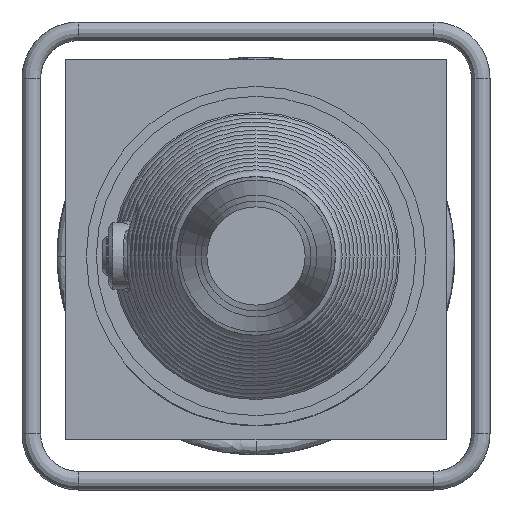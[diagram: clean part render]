
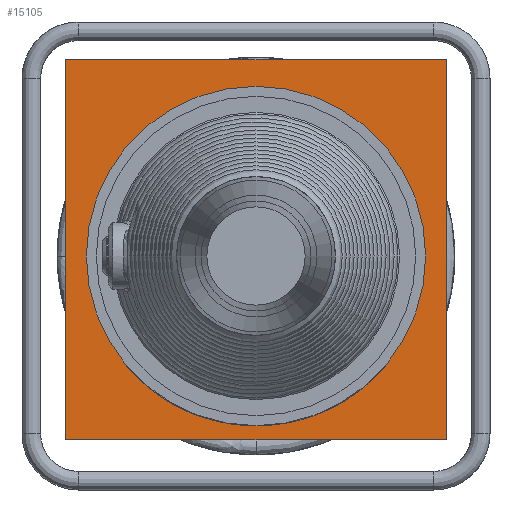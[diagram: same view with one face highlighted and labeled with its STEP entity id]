
A CAD part, left-side view. The second image highlights one B-rep face of the part: STEP entity #15105.
In plain terms, the highlighted planar face has unit normal (-1, 0, 0).
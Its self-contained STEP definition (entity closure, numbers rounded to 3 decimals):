
#1554=PLANE('',#15955);
#2421=LINE('',#40050,#3297);
#2425=LINE('',#40057,#3301);
#2428=LINE('',#40062,#3304);
#2431=LINE('',#40066,#3307);
#3297=VECTOR('',#18496,325.);
#3301=VECTOR('',#18502,325.);
#3304=VECTOR('',#18507,325.);
#3307=VECTOR('',#18512,325.);
#3583=FACE_BOUND('',#5514,.T.);
#4466=FACE_OUTER_BOUND('',#5513,.T.);
#5513=EDGE_LOOP('',(#13834,#13835,#13836,#13837));
#5514=EDGE_LOOP('',(#13838));
#5867=CIRCLE('',#15724,145.);
#7308=VERTEX_POINT('',#35227);
#7441=VERTEX_POINT('',#40048);
#7442=VERTEX_POINT('',#40049);
#7444=VERTEX_POINT('',#40056);
#7445=VERTEX_POINT('',#40061);
#9413=EDGE_CURVE('',#7308,#7308,#5867,.T.);
#9580=EDGE_CURVE('',#7441,#7442,#2421,.T.);
#9584=EDGE_CURVE('',#7442,#7444,#2425,.T.);
#9587=EDGE_CURVE('',#7444,#7445,#2428,.T.);
#9590=EDGE_CURVE('',#7445,#7441,#2431,.T.);
#13834=ORIENTED_EDGE('',*,*,#9590,.T.);
#13835=ORIENTED_EDGE('',*,*,#9580,.T.);
#13836=ORIENTED_EDGE('',*,*,#9584,.T.);
#13837=ORIENTED_EDGE('',*,*,#9587,.T.);
#13838=ORIENTED_EDGE('',*,*,#9413,.T.);
#15105=ADVANCED_FACE('',(#4466,#3583),#1554,.F.);
#15724=AXIS2_PLACEMENT_3D('',#35228,#18035,#18036);
#15955=AXIS2_PLACEMENT_3D('',#40067,#18513,#18514);
#18035=DIRECTION('center_axis',(1.,0.,0.));
#18036=DIRECTION('ref_axis',(0.,-1.,0.));
#18496=DIRECTION('',(0.,0.,-1.));
#18502=DIRECTION('',(0.,-1.,0.));
#18507=DIRECTION('',(0.,0.,1.));
#18512=DIRECTION('',(0.,1.,0.));
#18513=DIRECTION('center_axis',(1.,0.,0.));
#18514=DIRECTION('ref_axis',(0.,0.,1.));
#35227=CARTESIAN_POINT('',(-112.151,-145.,-0.005));
#35228=CARTESIAN_POINT('Origin',(-112.151,0.,
0.));
#40048=CARTESIAN_POINT('',(-112.151,162.5,167.753));
#40049=CARTESIAN_POINT('',(-112.151,162.5,-157.247));
#40050=CARTESIAN_POINT('',(-112.151,162.5,167.753));
#40056=CARTESIAN_POINT('',(-112.151,-162.5,-157.247));
#40057=CARTESIAN_POINT('',(-112.151,162.5,-157.247));
#40061=CARTESIAN_POINT('',(-112.151,-162.5,167.753));
#40062=CARTESIAN_POINT('',(-112.151,-162.5,-157.247));
#40066=CARTESIAN_POINT('',(-112.151,-162.5,167.753));
#40067=CARTESIAN_POINT('Origin',(-112.151,0.,5.253));
